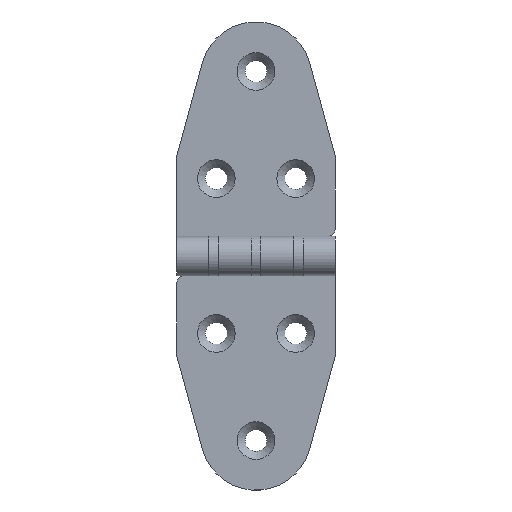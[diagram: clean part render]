
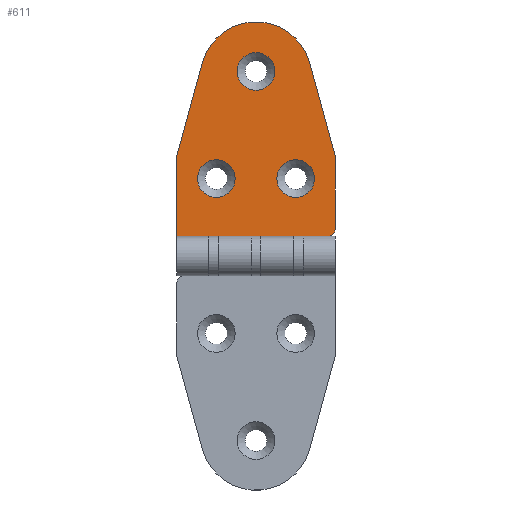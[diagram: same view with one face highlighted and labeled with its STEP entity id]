
A CAD part, left-side view. The second image highlights one B-rep face of the part: STEP entity #611.
In plain terms, the highlighted planar face has unit normal (-1, 0, 0).
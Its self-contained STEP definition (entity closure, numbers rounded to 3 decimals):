
#61=PLANE('',#676);
#70=LINE('',#941,#111);
#83=LINE('',#975,#124);
#87=LINE('',#989,#128);
#89=LINE('',#994,#130);
#91=LINE('',#1001,#132);
#93=LINE('',#1006,#134);
#95=LINE('',#1010,#136);
#98=LINE('',#1023,#139);
#103=LINE('',#1033,#144);
#104=LINE('',#1036,#145);
#106=LINE('',#1041,#147);
#111=VECTOR('',#747,17.731);
#124=VECTOR('',#774,24.307);
#128=VECTOR('',#788,24.731);
#130=VECTOR('',#792,5.);
#132=VECTOR('',#800,8.625);
#134=VECTOR('',#804,13.125);
#136=VECTOR('',#808,5.);
#139=VECTOR('',#821,5.);
#144=VECTOR('',#836,8.125);
#145=VECTOR('',#839,24.307);
#147=VECTOR('',#847,8.125);
#171=FACE_BOUND('',#253,.T.);
#172=FACE_BOUND('',#254,.T.);
#173=FACE_BOUND('',#255,.T.);
#207=FACE_OUTER_BOUND('',#252,.T.);
#252=EDGE_LOOP('',(#548,#549,#550,#551,#552,#553,#554,#555,#556,#557,#558,
#559,#560,#561,#562));
#253=EDGE_LOOP('',(#563));
#254=EDGE_LOOP('',(#564));
#255=EDGE_LOOP('',(#565));
#272=CIRCLE('',#626,4.75);
#275=CIRCLE('',#631,4.75);
#278=CIRCLE('',#636,4.75);
#282=CIRCLE('',#642,2.);
#286=CIRCLE('',#649,2.);
#287=CIRCLE('',#652,2.);
#296=CIRCLE('',#674,14.);
#305=VERTEX_POINT('',#904);
#308=VERTEX_POINT('',#912);
#311=VERTEX_POINT('',#920);
#316=VERTEX_POINT('',#931);
#317=VERTEX_POINT('',#933);
#319=VERTEX_POINT('',#939);
#332=VERTEX_POINT('',#969);
#333=VERTEX_POINT('',#973);
#334=VERTEX_POINT('',#977);
#335=VERTEX_POINT('',#979);
#338=VERTEX_POINT('',#987);
#339=VERTEX_POINT('',#991);
#340=VERTEX_POINT('',#993);
#343=VERTEX_POINT('',#1003);
#344=VERTEX_POINT('',#1005);
#345=VERTEX_POINT('',#1009);
#350=VERTEX_POINT('',#1021);
#351=VERTEX_POINT('',#1035);
#360=EDGE_CURVE('',#305,#305,#272,.T.);
#363=EDGE_CURVE('',#308,#308,#275,.T.);
#366=EDGE_CURVE('',#311,#311,#278,.T.);
#371=EDGE_CURVE('',#316,#317,#282,.T.);
#375=EDGE_CURVE('',#319,#316,#70,.T.);
#389=EDGE_CURVE('',#332,#319,#286,.T.);
#392=EDGE_CURVE('',#332,#333,#83,.T.);
#394=EDGE_CURVE('',#334,#335,#287,.T.);
#399=EDGE_CURVE('',#338,#334,#87,.T.);
#401=EDGE_CURVE('',#340,#339,#89,.T.);
#405=EDGE_CURVE('',#339,#317,#91,.T.);
#407=EDGE_CURVE('',#344,#343,#93,.T.);
#409=EDGE_CURVE('',#345,#344,#95,.T.);
#416=EDGE_CURVE('',#343,#350,#98,.T.);
#421=EDGE_CURVE('',#338,#345,#103,.T.);
#422=EDGE_CURVE('',#351,#335,#104,.T.);
#424=EDGE_CURVE('',#333,#351,#296,.T.);
#425=EDGE_CURVE('',#350,#340,#106,.T.);
#548=ORIENTED_EDGE('',*,*,#371,.F.);
#549=ORIENTED_EDGE('',*,*,#375,.F.);
#550=ORIENTED_EDGE('',*,*,#389,.F.);
#551=ORIENTED_EDGE('',*,*,#392,.T.);
#552=ORIENTED_EDGE('',*,*,#424,.T.);
#553=ORIENTED_EDGE('',*,*,#422,.T.);
#554=ORIENTED_EDGE('',*,*,#394,.F.);
#555=ORIENTED_EDGE('',*,*,#399,.F.);
#556=ORIENTED_EDGE('',*,*,#421,.T.);
#557=ORIENTED_EDGE('',*,*,#409,.T.);
#558=ORIENTED_EDGE('',*,*,#407,.T.);
#559=ORIENTED_EDGE('',*,*,#416,.T.);
#560=ORIENTED_EDGE('',*,*,#425,.T.);
#561=ORIENTED_EDGE('',*,*,#401,.T.);
#562=ORIENTED_EDGE('',*,*,#405,.T.);
#563=ORIENTED_EDGE('',*,*,#360,.T.);
#564=ORIENTED_EDGE('',*,*,#363,.T.);
#565=ORIENTED_EDGE('',*,*,#366,.T.);
#611=ADVANCED_FACE('',(#207,#171,#172,#173),#61,.T.);
#626=AXIS2_PLACEMENT_3D('',#905,#707,#708);
#631=AXIS2_PLACEMENT_3D('',#913,#717,#718);
#636=AXIS2_PLACEMENT_3D('',#921,#727,#728);
#642=AXIS2_PLACEMENT_3D('',#934,#740,#741);
#649=AXIS2_PLACEMENT_3D('',#970,#768,#769);
#652=AXIS2_PLACEMENT_3D('',#980,#778,#779);
#674=AXIS2_PLACEMENT_3D('',#1039,#843,#844);
#676=AXIS2_PLACEMENT_3D('',#1042,#848,#849);
#707=DIRECTION('center_axis',(1.,0.,0.));
#708=DIRECTION('ref_axis',(0.,0.,1.));
#717=DIRECTION('center_axis',(1.,0.,0.));
#718=DIRECTION('ref_axis',(0.,0.,1.));
#727=DIRECTION('center_axis',(1.,0.,0.));
#728=DIRECTION('ref_axis',(0.,0.,1.));
#740=DIRECTION('center_axis',(1.,0.,0.));
#741=DIRECTION('ref_axis',(0.,-0.707,-0.707));
#747=DIRECTION('',(0.,0.,-1.));
#768=DIRECTION('center_axis',(1.,0.,0.));
#769=DIRECTION('ref_axis',(0.,-0.991,0.133));
#774=DIRECTION('',(0.,0.264,0.964));
#778=DIRECTION('center_axis',(1.,0.,0.));
#779=DIRECTION('ref_axis',(0.,0.991,0.133));
#788=DIRECTION('',(0.,0.,1.));
#792=DIRECTION('',(0.,0.,1.));
#800=DIRECTION('',(0.,-1.,0.));
#804=DIRECTION('',(0.,-1.,0.));
#808=DIRECTION('',(0.,0.,1.));
#821=DIRECTION('',(0.,0.,-1.));
#836=DIRECTION('',(0.,-1.,0.));
#839=DIRECTION('',(0.,0.264,-0.964));
#843=DIRECTION('center_axis',(-1.,0.,0.));
#844=DIRECTION('ref_axis',(0.,0.,1.));
#847=DIRECTION('',(0.,-1.,0.));
#848=DIRECTION('center_axis',(-1.,0.,0.));
#849=DIRECTION('ref_axis',(0.,0.,1.));
#904=CARTESIAN_POINT('',(2.5,10.,24.25));
#905=CARTESIAN_POINT('Origin',(2.5,10.,19.5));
#912=CARTESIAN_POINT('',(2.5,-10.,24.25));
#913=CARTESIAN_POINT('Origin',(2.5,-10.,19.5));
#920=CARTESIAN_POINT('',(2.5,0.,51.25));
#921=CARTESIAN_POINT('Origin',(2.5,0.,46.5));
#931=CARTESIAN_POINT('',(2.5,-20.,7.));
#933=CARTESIAN_POINT('',(2.5,-18.,5.));
#934=CARTESIAN_POINT('Origin',(2.5,-18.,7.));
#939=CARTESIAN_POINT('',(2.5,-20.,24.731));
#941=CARTESIAN_POINT('',(2.5,-20.,-4.33));
#969=CARTESIAN_POINT('',(2.5,-19.929,25.26));
#970=CARTESIAN_POINT('Origin',(2.5,-18.,24.731));
#973=CARTESIAN_POINT('',(2.5,-13.502,48.702));
#975=CARTESIAN_POINT('',(2.5,-23.04,13.91));
#977=CARTESIAN_POINT('',(2.5,20.,24.731));
#979=CARTESIAN_POINT('',(2.5,19.929,25.26));
#980=CARTESIAN_POINT('Origin',(2.5,18.,24.731));
#987=CARTESIAN_POINT('',(2.5,20.,0.));
#989=CARTESIAN_POINT('',(2.5,20.,-4.33));
#991=CARTESIAN_POINT('',(2.5,-9.375,5.));
#993=CARTESIAN_POINT('',(2.5,-9.375,0.));
#994=CARTESIAN_POINT('',(2.5,-9.375,0.335));
#1001=CARTESIAN_POINT('',(2.5,-5.938,5.));
#1003=CARTESIAN_POINT('',(2.5,-1.25,5.));
#1005=CARTESIAN_POINT('',(2.5,11.875,5.));
#1006=CARTESIAN_POINT('',(2.5,4.688,5.));
#1009=CARTESIAN_POINT('',(2.5,11.875,0.));
#1010=CARTESIAN_POINT('',(2.5,11.875,0.335));
#1021=CARTESIAN_POINT('',(2.5,-1.25,0.));
#1023=CARTESIAN_POINT('',(2.5,-1.25,-10.509));
#1033=CARTESIAN_POINT('',(2.5,0.,0.));
#1035=CARTESIAN_POINT('',(2.5,13.502,48.702));
#1036=CARTESIAN_POINT('',(2.5,19.791,25.761));
#1039=CARTESIAN_POINT('Origin',(2.5,0.,45.));
#1041=CARTESIAN_POINT('',(2.5,0.,0.));
#1042=CARTESIAN_POINT('Origin',(2.5,0.,-4.33));
